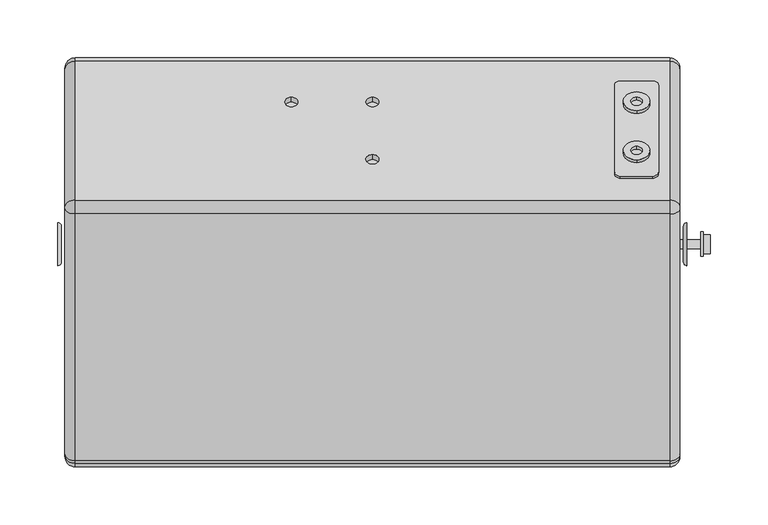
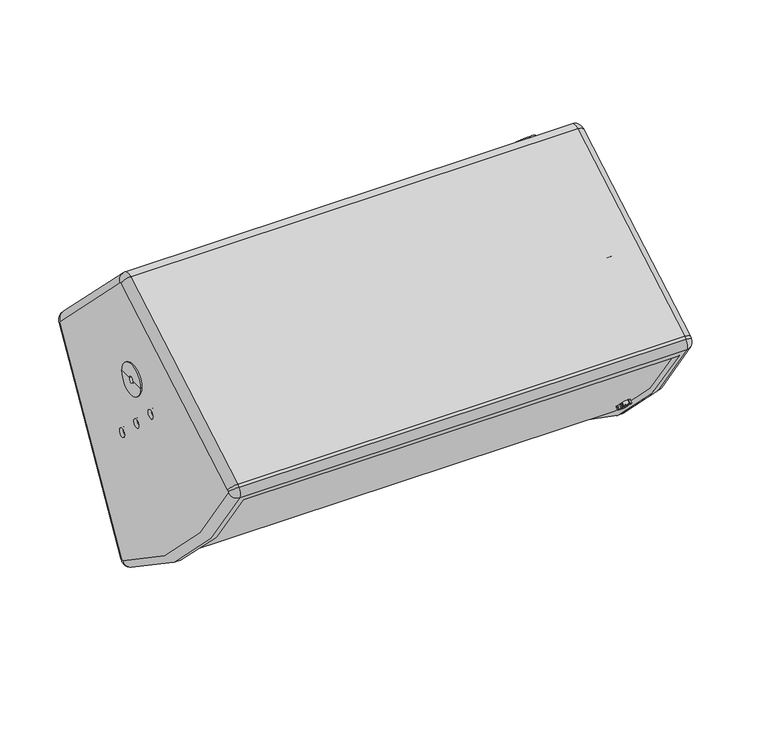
"""IFC4 building model written with IfcOpenShell, lengths in millimetres: proxy geometry, ePS10-WM330-HBRK535-WHM : ePS10-WM330-HBRK535-WHM."""

from ifc_helpers import new_model, si_unit, point, frame, frame_2d, origin, place, context, project, spatial, polyline, circle_curve, ellipse_curve, trimmed, segment, composite_curve, outline, extrude, source, transform, mapped, element, save
from ifc_brep_helpers import plane_surface, cylinder_surface, revolved_surface, advanced_brep


def generic_models_1c3ee055(model_context):
    return source(origin(), model_context, "Body", "SolidModel", [
        extrude(outline(polyline([(0.0, 0.0), (7.2797671, 0.0), (7.2797671, -1.8923674), (3.1144368, -1.8923674), (7.2797671, -4.6674642), (7.2797671, -11.518374), (5.4047959, -12.8369463), (3.8052625, -11.7735692), (5.6771026, -10.4040265), (5.6771026, -7.3703973), (4.4228153, -7.3703973), (4.4228153, -9.6535102), (2.820085, -9.6535102), (2.820085, -7.3703973), (1.6035818, -7.3703973), (1.6035818, -9.7774719), (0.8035818, -9.7774719), (0.0008515, -9.2438132), (0.0008515, -4.9754372), (4.4509076, -4.9657455), (0.0, -2.0264794), (0.0, 0.0)])), frame((236.0590531, -413.2869064, -352.6687176), z_axis=(0.0, 0.7071067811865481, 0.7071067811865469), x_axis=(1.0, 0.0, 0.0)), (0.0, 0.0, 1.0), 5.0),
        extrude(outline(polyline([(0.0, -9.8851283), (8.2409469, -15.3637475), (8.2409469, -17.5569502), (0.0, -12.0783311), (0.0, -9.8851283)])), frame((236.0590531, -413.2869064, -352.6687176), z_axis=(0.0, 0.7071067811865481, 0.7071067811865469), x_axis=(1.0, 0.0, 0.0)), (0.0, 0.0, 1.0), 5.0),
        extrude(outline(polyline([(0.0, -16.6257623), (0.0, -14.2989718), (1.267957, -13.5511775), (2.8988509, -14.6354033), (0.0, -16.6257623)])), frame((236.0590531, -413.2869064, -352.6687176), z_axis=(0.0, 0.7071067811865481, 0.7071067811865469), x_axis=(1.0, 0.0, 0.0)), (0.0, 0.0, 1.0), 5.0),
        extrude(outline(composite_curve([segment(trimmed(circle_curve(frame_2d((3.670838, -20.0113735)), 3.9406238), [point((3.670838, -16.0707497))], [point((3.670838, -23.9519974))], False, "CARTESIAN"), True, "CONTINUOUS"), segment(trimmed(circle_curve(frame_2d((3.670838, -20.0113735)), 3.9406238), [point((3.670838, -23.9519974))], [point((3.670838, -16.0707497))], False, "CARTESIAN"), True, "CONTINUOUS")], self_intersect=False), holes=[composite_curve([segment(trimmed(circle_curve(frame_2d((3.670838, -20.0113735)), 2.0681078), [point((3.670838, -17.9432658))], [point((3.670838, -22.0794813))], True, "CARTESIAN"), True, "CONTINUOUS"), segment(trimmed(circle_curve(frame_2d((3.670838, -20.0113735)), 2.0681078), [point((3.670838, -22.0794813))], [point((3.670838, -17.9432658))], True, "CARTESIAN"), True, "CONTINUOUS")], self_intersect=False)]), frame((236.0590531, -413.2869064, -352.6687176), z_axis=(0.0, 0.7071067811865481, 0.7071067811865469), x_axis=(1.0, 0.0, 0.0)), (0.0, 0.0, 1.0), 5.0),
        extrude(outline(composite_curve([segment(trimmed(circle_curve(frame_2d((0.0, 5.0)), 11.4515227), [point((0.0, 16.4515227))], [point((0.0, -6.4515226))], False, "CARTESIAN"), True, "CONTINUOUS"), segment(trimmed(circle_curve(frame_2d((0.0, 5.0)), 11.4515227), [point((0.0, -6.4515226))], [point((0.0, 16.4515227))], False, "CARTESIAN"), True, "CONTINUOUS")], self_intersect=False), holes=[composite_curve([segment(trimmed(circle_curve(frame_2d((0.0, 5.0)), 5.0), [point((0.0, 10.0))], [point((0.0, 0.0))], True, "CARTESIAN"), True, "CONTINUOUS"), segment(trimmed(circle_curve(frame_2d((0.0, 5.0)), 5.0), [point((0.0, 0.0))], [point((0.0, 10.0))], True, "CARTESIAN"), True, "CONTINUOUS")], self_intersect=False)]), frame((228.0, -242.4086253, -129.5545454), z_axis=(0.0, 0.7071067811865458, 0.7071067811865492), x_axis=(-1.0, 0.0, 0.0)), (0.0, 0.0, 1.0), 3.4052646),
        extrude(outline(composite_curve([segment(trimmed(circle_curve(frame_2d((0.0, -55.0)), 11.4515227), [point((0.0, -43.5484773))], [point((0.0, -66.4515227))], False, "CARTESIAN"), True, "CONTINUOUS"), segment(trimmed(circle_curve(frame_2d((0.0, -55.0)), 11.4515227), [point((0.0, -66.4515227))], [point((0.0, -43.5484773))], False, "CARTESIAN"), True, "CONTINUOUS")], self_intersect=False), holes=[composite_curve([segment(trimmed(circle_curve(frame_2d((0.0, -55.0)), 5.0), [point((0.0, -50.0))], [point((0.0, -60.0))], True, "CARTESIAN"), True, "CONTINUOUS"), segment(trimmed(circle_curve(frame_2d((0.0, -55.0)), 5.0), [point((0.0, -60.0))], [point((0.0, -50.0))], True, "CARTESIAN"), True, "CONTINUOUS")], self_intersect=False)]), frame((228.0, -242.4086253, -129.5545454), z_axis=(0.0, 0.7071067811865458, 0.7071067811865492), x_axis=(-1.0, 0.0, 0.0)), (0.0, 0.0, 1.0), 3.4052646),
        extrude(outline(composite_curve([segment(polyline([(-5.0, -5.0), (-5.0, 101.0)]), True, "CONTINUOUS"), segment(trimmed(circle_curve(frame_2d((0.0, 101.0)), 5.0), [point((-5.0, 101.0))], [point((0.0, 106.0))], False, "CARTESIAN"), True, "CONTINUOUS"), segment(polyline([(0.0, 106.0), (28.0, 106.0)]), True, "CONTINUOUS"), segment(trimmed(circle_curve(frame_2d((28.0, 101.0)), 5.0), [point((28.0, 106.0))], [point((33.0, 101.0))], False, "CARTESIAN"), True, "CONTINUOUS"), segment(polyline([(33.0, 101.0), (33.0, -5.0)]), True, "CONTINUOUS"), segment(trimmed(circle_curve(frame_2d((28.0, -5.0)), 5.0), [point((33.0, -5.0))], [point((28.0, -10.0))], False, "CARTESIAN"), True, "CONTINUOUS"), segment(polyline([(28.0, -10.0), (0.0, -10.0)]), True, "CONTINUOUS"), segment(trimmed(circle_curve(frame_2d((0.0, -5.0)), 5.0), [point((0.0, -10.0))], [point((-5.0, -5.0))], False, "CARTESIAN"), True, "CONTINUOUS")], self_intersect=False)), frame((214.0, -260.4398482, -115.0588564), z_axis=(0.0, 0.7071067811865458, 0.7071067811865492), x_axis=(1.0, 0.0, 0.0)), (0.0, 0.0, 1.0), 2.5),
        advanced_brep(
        [(-265.5, -172.9843873, -215.2305344), (-265.5, -172.8241534, -216.447632), (-265.5, -295.2300101, -428.460795), (-265.5, -296.644098, -429.8748829), (-265.5, -297.8446197, -430.0444794), (-265.5, -507.5432202, -220.3458788), (-265.5, -507.3736237, -219.1453572), (-265.5, -505.9595358, -217.7312692), (-265.5, -293.9463729, -95.3254125), (-265.5, -292.7292753, -95.4856465), (-265.5, -328.0355339, -250.5367931), (-265.5, -320.9644661, -243.4657252), (-265.5, -299.7512627, -278.8210643), (-265.5, -292.6801948, -271.7499965), (-265.5, -356.3198052, -222.2525218), (-265.5, -349.2487373, -215.181454), (265.5, -292.7351278, -95.4914989), (265.5, -293.9422345, -95.3325803), (265.5, -505.9544538, -217.7378922), (265.5, -507.3677713, -219.1512096), (265.5, -507.5359756, -220.3418766), (265.5, -297.8406174, -430.0372347), (265.5, -296.6499505, -429.8690304), (265.5, -295.2366331, -428.455713), (265.5, -172.8313212, -216.4434937), (265.5, -172.9902398, -215.2363869), (265.5, -320.9644661, -243.4657252), (265.5, -328.0355339, -250.5367931), (265.5, -292.6801948, -271.7499965), (265.5, -299.7512627, -278.8210643), (265.5, -349.2487373, -215.181454), (265.5, -356.3198052, -222.2525218), (-261.5, -320.9644661, -243.4657252), (-261.5, -328.0355339, -250.5367931), (-261.5, -292.6801948, -271.7499965), (-261.5, -299.7512627, -278.8210643), (-261.5, -349.2487373, -215.181454), (-261.5, -356.3198052, -222.2525218), (-250.5, -309.2268821, -433.9606806), (-250.5, -305.5613562, -430.2951547), (-250.5, -507.7938956, -228.0626153), (-250.5, -511.4594215, -231.7281412), (250.5, -511.4594215, -231.7281412), (250.5, -507.7938956, -228.0626153), (250.5, -305.5613562, -430.2951547), (250.5, -309.2268821, -433.9606806), (261.5, -320.9644661, -243.4657252), (261.5, -328.0355339, -250.5367931), (261.5, -292.6801948, -271.7499965), (261.5, -299.7512627, -278.8210643), (261.5, -349.2487373, -215.181454), (261.5, -356.3198052, -222.2525218), (0.0, -210.0595176, -174.0584445), (0.0, -202.0597921, -182.0581701), (0.0, -259.5569923, -124.5609698), (0.0, -251.5572667, -132.5606954), (-70.0, -210.0595176, -174.0584445), (-70.0, -202.0597921, -182.0581701), (0.0, -197.7501633, -177.7485413), (0.0, -205.7498889, -169.7488158), (0.0, -247.247638, -128.2510666), (0.0, -255.2473636, -120.2513411), (-256.5082766, -166.6262788, -208.8724259), (-256.5082766, -286.3711667, -89.1275379), (256.5, -286.3711667, -89.1275379), (256.5, -166.6262788, -208.8724259), (-70.0, -197.7501633, -177.7485413), (-70.0, -205.7498889, -169.7488158), (-256.5082766, -165.0370925, -220.9434937), (256.5, -165.0370925, -220.9434937), (-256.5082766, -288.0348407, -433.9818427), (256.5, -288.0348407, -433.9818427), (-256.5082766, -290.2859894, -436.2329914), (256.5, -290.2859894, -436.2329914), (-256.5082766, -515.4137756, -224.6939183), (-256.5082766, -302.1926592, -437.9150347), (256.500006, -302.1926592, -437.9150347), (256.5, -515.4137756, -224.6939183), (-256.5082766, -511.4805835, -210.5360998), (-256.5082766, -513.7317323, -212.7872486), (256.5, -513.7317323, -212.7872486), (256.5, -511.4805835, -210.5360998), (-256.5082766, -298.4422345, -87.5383517), (256.5, -298.4422345, -87.5383517)],
        [
            (0, 1, circle_curve(frame((-265.5, -173.6973466, -215.9434937), z_axis=(-1.0, 0.0, 0.0), x_axis=(0.0, 0.7071067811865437, 0.7071067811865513)), 1.0082766)),
            (1, 2),
            (2, 3),
            (3, 4, circle_curve(frame((-265.5, -297.3570572, -429.1619236), z_axis=(-1.0, 0.0, 0.0), x_axis=(0.0, 0.7071067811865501, -0.7071067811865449)), 1.0082766)),
            (4, 5, circle_curve(frame((-265.5, -39.0018389, 38.4969019), z_axis=(-1.0, 0.0, 0.0), x_axis=(0.0, -0.4835601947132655, -0.8753111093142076)), 535.2855417)),
            (5, 6, circle_curve(frame((-265.5, -506.6606645, -219.8583164), z_axis=(-1.0, 0.0, 0.0), x_axis=(0.0, -0.8753111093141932, -0.48356019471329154)), 1.0082766)),
            (6, 7),
            (7, 8),
            (8, 9, circle_curve(frame((-265.5, -293.4422345, -96.1986057), z_axis=(-1.0, 0.0, 0.0), x_axis=(0.0, -0.5000000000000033, 0.8660254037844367)), 1.0082766)),
            (9, 0),
            (10, 11, circle_curve(frame((-265.5, -324.5, -247.0012591), z_axis=(1.0, 0.0, 0.0), x_axis=(0.0, -0.7071067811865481, -0.7071067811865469)), 5.0)),
            (11, 10, circle_curve(frame((-265.5, -324.5, -247.0012591), z_axis=(1.0, 0.0, 0.0), x_axis=(0.0, -0.7071067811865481, -0.7071067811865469)), 5.0)),
            (12, 13, circle_curve(frame((-265.5, -296.2157288, -275.2855304), z_axis=(1.0, 0.0, 0.0), x_axis=(0.0, -0.7071067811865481, -0.7071067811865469)), 5.0)),
            (13, 12, circle_curve(frame((-265.5, -296.2157288, -275.2855304), z_axis=(1.0, 0.0, 0.0), x_axis=(0.0, -0.7071067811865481, -0.7071067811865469)), 5.0)),
            (14, 15, circle_curve(frame((-265.5, -352.7842712, -218.7169879), z_axis=(1.0, 0.0, 0.0), x_axis=(0.0, -0.7071067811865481, -0.7071067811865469)), 5.0)),
            (15, 14, circle_curve(frame((-265.5, -352.7842712, -218.7169879), z_axis=(1.0, 0.0, 0.0), x_axis=(0.0, -0.7071067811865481, -0.7071067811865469)), 5.0)),
            (16, 17, circle_curve(frame((265.5, -293.4422345, -96.1986057), z_axis=(1.0, 0.0, 0.0), x_axis=(0.0, 0.7071067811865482, 0.7071067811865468)), 1.0)),
            (17, 18),
            (18, 19),
            (19, 20, circle_curve(frame((265.5, -506.6606645, -219.8583164), z_axis=(1.0, 0.0, 0.0), x_axis=(0.0, -0.7071067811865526, 0.7071067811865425)), 1.0)),
            (20, 21, circle_curve(frame((265.5, -39.0018389, 38.4969019), z_axis=(1.0, 0.0, 0.0), x_axis=(0.0, -0.8753111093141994, -0.4835601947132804)), 535.277265)),
            (21, 22, circle_curve(frame((265.5, -297.3570572, -429.1619236), z_axis=(1.0, 0.0, 0.0), x_axis=(0.0, -0.4835601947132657, -0.8753111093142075)), 1.0)),
            (22, 23),
            (23, 24),
            (24, 25, circle_curve(frame((265.5, -173.6973466, -215.9434937), z_axis=(1.0, 0.0, 0.0), x_axis=(0.0, 0.8660254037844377, -0.5000000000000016)), 1.0)),
            (25, 16),
            (26, 27, circle_curve(frame((265.5, -324.5, -247.0012591), z_axis=(-1.0, 0.0, 0.0), x_axis=(0.0, -0.7071067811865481, -0.7071067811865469)), 5.0)),
            (27, 26, circle_curve(frame((265.5, -324.5, -247.0012591), z_axis=(-1.0, 0.0, 0.0), x_axis=(0.0, -0.7071067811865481, -0.7071067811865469)), 5.0)),
            (28, 29, circle_curve(frame((265.5, -296.2157288, -275.2855304), z_axis=(-1.0, 0.0, 0.0), x_axis=(0.0, -0.7071067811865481, -0.7071067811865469)), 5.0)),
            (29, 28, circle_curve(frame((265.5, -296.2157288, -275.2855304), z_axis=(-1.0, 0.0, 0.0), x_axis=(0.0, -0.7071067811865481, -0.7071067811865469)), 5.0)),
            (30, 31, circle_curve(frame((265.5, -352.7842712, -218.7169879), z_axis=(-1.0, 0.0, 0.0), x_axis=(0.0, -0.7071067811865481, -0.7071067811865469)), 5.0)),
            (31, 30, circle_curve(frame((265.5, -352.7842712, -218.7169879), z_axis=(-1.0, 0.0, 0.0), x_axis=(0.0, -0.7071067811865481, -0.7071067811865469)), 5.0)),
            (32, 33, circle_curve(frame((-261.5, -324.5, -247.0012591), z_axis=(-1.0, 0.0, 0.0), x_axis=(0.0, -0.7071067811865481, -0.7071067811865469)), 5.0)),
            (33, 32, circle_curve(frame((-261.5, -324.5, -247.0012591), z_axis=(-1.0, 0.0, 0.0), x_axis=(0.0, -0.7071067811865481, -0.7071067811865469)), 5.0)),
            (34, 35, circle_curve(frame((-261.5, -296.2157288, -275.2855304), z_axis=(-1.0, 0.0, 0.0), x_axis=(0.0, -0.7071067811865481, -0.7071067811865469)), 5.0)),
            (35, 34, circle_curve(frame((-261.5, -296.2157288, -275.2855304), z_axis=(-1.0, 0.0, 0.0), x_axis=(0.0, -0.7071067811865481, -0.7071067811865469)), 5.0)),
            (36, 37, circle_curve(frame((-261.5, -352.7842712, -218.7169879), z_axis=(-1.0, 0.0, 0.0), x_axis=(0.0, -0.7071067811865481, -0.7071067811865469)), 5.0)),
            (37, 36, circle_curve(frame((-261.5, -352.7842712, -218.7169879), z_axis=(-1.0, 0.0, 0.0), x_axis=(0.0, -0.7071067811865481, -0.7071067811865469)), 5.0)),
            (32, 11),
            (10, 33),
            (34, 13),
            (12, 35),
            (36, 15),
            (14, 37),
            (38, 39),
            (39, 40, circle_curve(frame((-250.5, -39.0018389, 38.4969019), z_axis=(-1.0, 0.0, 0.0), x_axis=(0.0, -0.7071067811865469, 0.7071067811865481)), 539.277265)),
            (40, 41),
            (41, 38, circle_curve(frame((-250.5, -39.0018389, 38.4969019), z_axis=(1.0, 0.0, 0.0), x_axis=(0.0, -0.7071067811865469, 0.7071067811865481)), 544.277265)),
            (42, 43),
            (43, 44, circle_curve(frame((250.5, -39.0018389, 38.4969019), z_axis=(1.0, 0.0, 0.0), x_axis=(0.0, -0.7071067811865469, 0.7071067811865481)), 539.277265)),
            (44, 45),
            (45, 42, circle_curve(frame((250.5, -39.0018389, 38.4969019), z_axis=(-1.0, 0.0, 0.0), x_axis=(0.0, -0.7071067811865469, 0.7071067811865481)), 544.277265)),
            (46, 47, circle_curve(frame((261.5, -324.5, -247.0012591), z_axis=(1.0, 0.0, 0.0), x_axis=(0.0, -0.7071067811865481, -0.7071067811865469)), 5.0)),
            (47, 46, circle_curve(frame((261.5, -324.5, -247.0012591), z_axis=(1.0, 0.0, 0.0), x_axis=(0.0, -0.7071067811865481, -0.7071067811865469)), 5.0)),
            (48, 49, circle_curve(frame((261.5, -296.2157288, -275.2855304), z_axis=(1.0, 0.0, 0.0), x_axis=(0.0, -0.7071067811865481, -0.7071067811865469)), 5.0)),
            (49, 48, circle_curve(frame((261.5, -296.2157288, -275.2855304), z_axis=(1.0, 0.0, 0.0), x_axis=(0.0, -0.7071067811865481, -0.7071067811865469)), 5.0)),
            (50, 51, circle_curve(frame((261.5, -352.7842712, -218.7169879), z_axis=(1.0, 0.0, 0.0), x_axis=(0.0, -0.7071067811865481, -0.7071067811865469)), 5.0)),
            (51, 50, circle_curve(frame((261.5, -352.7842712, -218.7169879), z_axis=(1.0, 0.0, 0.0), x_axis=(0.0, -0.7071067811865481, -0.7071067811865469)), 5.0)),
            (47, 27),
            (26, 46),
            (49, 29),
            (28, 48),
            (51, 31),
            (30, 50),
            (52, 53, circle_curve(frame((0.0, -206.0596548, -178.0583073), z_axis=(0.0, 0.7071067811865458, 0.7071067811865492), x_axis=(0.0, 0.7071067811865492, -0.7071067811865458)), 5.6566602)),
            (53, 52, circle_curve(frame((0.0, -206.0596548, -178.0583073), z_axis=(0.0, 0.7071067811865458, 0.7071067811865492), x_axis=(0.0, 0.7071067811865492, -0.7071067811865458)), 5.6566602)),
            (54, 55, circle_curve(frame((0.0, -255.5571295, -128.5608326), z_axis=(0.0, 0.7071067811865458, 0.7071067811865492), x_axis=(0.0, 0.7071067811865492, -0.7071067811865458)), 5.6566602)),
            (55, 54, circle_curve(frame((0.0, -255.5571295, -128.5608326), z_axis=(0.0, 0.7071067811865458, 0.7071067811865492), x_axis=(0.0, 0.7071067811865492, -0.7071067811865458)), 5.6566602)),
            (56, 57, circle_curve(frame((-70.0, -206.0596548, -178.0583073), z_axis=(0.0, 0.7071067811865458, 0.7071067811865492), x_axis=(0.0, 0.7071067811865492, -0.7071067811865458)), 5.6566602)),
            (57, 56, circle_curve(frame((-70.0, -206.0596548, -178.0583073), z_axis=(0.0, 0.7071067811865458, 0.7071067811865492), x_axis=(0.0, 0.7071067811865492, -0.7071067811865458)), 5.6566602)),
            (53, 58),
            (58, 59, circle_curve(frame((0.0, -201.7500261, -173.7486785), z_axis=(0.0, 0.7071067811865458, 0.7071067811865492), x_axis=(0.0, 0.7071067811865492, -0.7071067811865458)), 5.6566602)),
            (59, 52),
            (59, 58, circle_curve(frame((0.0, -201.7500261, -173.7486785), z_axis=(0.0, 0.7071067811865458, 0.7071067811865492), x_axis=(0.0, 0.7071067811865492, -0.7071067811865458)), 5.6566602)),
            (55, 60),
            (60, 61, circle_curve(frame((0.0, -251.2475008, -124.2512038), z_axis=(0.0, 0.7071067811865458, 0.7071067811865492), x_axis=(0.0, 0.7071067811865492, -0.7071067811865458)), 5.6566602)),
            (61, 54),
            (61, 60, circle_curve(frame((0.0, -251.2475008, -124.2512038), z_axis=(0.0, 0.7071067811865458, 0.7071067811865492), x_axis=(0.0, 0.7071067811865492, -0.7071067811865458)), 5.6566602)),
            (62, 63),
            (63, 64),
            (64, 65),
            (65, 62),
            (66, 67, circle_curve(frame((-70.0, -201.7500261, -173.7486785), z_axis=(0.0, -0.7071067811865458, -0.7071067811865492), x_axis=(0.0, 0.7071067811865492, -0.7071067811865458)), 5.6566602)),
            (67, 66, circle_curve(frame((-70.0, -201.7500261, -173.7486785), z_axis=(0.0, -0.7071067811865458, -0.7071067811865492), x_axis=(0.0, 0.7071067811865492, -0.7071067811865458)), 5.6566602)),
            (68, 62, circle_curve(frame((-256.5082766, -173.6973466, -215.9434937), z_axis=(1.0, 0.0, 0.0), x_axis=(0.0, -0.7071067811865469, 0.7071067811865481)), 10.0)),
            (65, 69, circle_curve(frame((256.5, -173.6973466, -215.9434937), z_axis=(-1.0, 0.0, 0.0), x_axis=(0.0, -0.7071067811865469, 0.7071067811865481)), 10.0)),
            (69, 68),
            (70, 68),
            (69, 71),
            (71, 70),
            (72, 70),
            (71, 73),
            (73, 72),
            (74, 75, circle_curve(frame((-256.5082766, -39.0018389, 38.4969019), z_axis=(1.0, 0.0, 0.0), x_axis=(0.0, -0.7071067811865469, 0.7071067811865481)), 544.277265)),
            (75, 76),
            (76, 77, circle_curve(frame((256.5, -39.0018389, 38.4969019), z_axis=(-1.0, 0.0, 0.0), x_axis=(0.0, -0.7071067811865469, 0.7071067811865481)), 544.277265)),
            (77, 74),
            (41, 42),
            (45, 38),
            (78, 79),
            (79, 80),
            (80, 81),
            (81, 78),
            (82, 78),
            (81, 83),
            (83, 82),
            (63, 82, circle_curve(frame((-256.5082766, -293.4422345, -96.1986057), z_axis=(1.0, 0.0, 0.0), x_axis=(0.0, -0.7071067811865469, 0.7071067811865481)), 10.0)),
            (83, 64, circle_curve(frame((256.5, -293.4422345, -96.1986057), z_axis=(-1.0, 0.0, 0.0), x_axis=(0.0, -0.7071067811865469, 0.7071067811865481)), 10.0)),
            (75, 72, circle_curve(frame((-256.5082766, -297.3570572, -429.1619236), z_axis=(1.0, 0.0, 0.0), x_axis=(0.0, -0.7071067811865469, 0.7071067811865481)), 10.0)),
            (73, 76, circle_curve(frame((256.5, -297.3570572, -429.1619236), z_axis=(-1.0, 0.0, 0.0), x_axis=(0.0, -0.7071067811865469, 0.7071067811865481)), 10.0)),
            (79, 74, circle_curve(frame((-256.5082766, -506.6606645, -219.8583164), z_axis=(1.0, 0.0, 0.0), x_axis=(0.0, -0.7071067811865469, 0.7071067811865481)), 10.0)),
            (77, 80, circle_curve(frame((256.5, -506.6606645, -219.8583164), z_axis=(-1.0, 0.0, 0.0), x_axis=(0.0, -0.7071067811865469, 0.7071067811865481)), 10.0)),
            (56, 67),
            (66, 57),
            (40, 43),
            (39, 44),
            (68, 1, circle_curve(frame((-256.5082766, -172.8241534, -216.447632), z_axis=(0.0, 0.5000000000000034, 0.8660254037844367), x_axis=(0.0, -0.8660254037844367, 0.5000000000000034)), 8.9917234)),
            (0, 62, circle_curve(frame((-256.5082766, -172.9843873, -215.2305344), z_axis=(0.0, 0.7071067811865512, -0.7071067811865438), x_axis=(0.0, -0.7071067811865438, -0.7071067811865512)), 8.9917234)),
            (70, 2, ellipse_curve(frame((-256.5082766, -295.2300101, -428.460795), z_axis=(0.0, 0.6087614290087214, 0.7933533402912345), x_axis=(0.0, 0.7933533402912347, -0.6087614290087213)), 9.0693126, 8.9917234)),
            (72, 3, circle_curve(frame((-256.5082766, -296.644098, -429.8748829), z_axis=(0.0, 0.7071067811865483, 0.7071067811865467), x_axis=(0.0, -0.7071067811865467, 0.7071067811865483)), 8.9917234)),
            (75, 4, circle_curve(frame((-256.5082766, -297.8446197, -430.0444794), z_axis=(0.0, 0.8753111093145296, -0.4835601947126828), x_axis=(0.0, 0.4835601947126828, 0.8753111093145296)), 8.9917234)),
            (74, 5, circle_curve(frame((-256.5082766, -507.5432202, -220.3458788), z_axis=(0.0, 0.4835601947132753, -0.8753111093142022), x_axis=(0.0, 0.8753111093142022, 0.4835601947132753)), 8.9917234)),
            (79, 6, circle_curve(frame((-256.5082766, -507.3736237, -219.1453572), z_axis=(0.0, -0.7071067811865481, -0.7071067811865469), x_axis=(0.0, 0.7071067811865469, -0.7071067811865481)), 8.9917234)),
            (78, 7, ellipse_curve(frame((-256.5082766, -505.9595358, -217.7312692), z_axis=(0.0, -0.7933533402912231, -0.6087614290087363), x_axis=(0.0, -0.6087614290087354, 0.7933533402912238)), 9.0693126, 8.9917234)),
            (82, 8, circle_curve(frame((-256.5082766, -293.9463729, -95.3254125), z_axis=(0.0, -0.8660254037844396, -0.4999999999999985), x_axis=(0.0, 0.4999999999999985, -0.8660254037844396)), 8.9917234)),
            (63, 9, circle_curve(frame((-256.5082766, -292.7292753, -95.4856465), z_axis=(0.0, -0.7071067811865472, 0.7071067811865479), x_axis=(0.0, -0.7071067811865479, -0.7071067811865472)), 8.9917234)),
            (83, 17, circle_curve(frame((256.5, -293.9422345, -95.3325803), z_axis=(0.0, 0.866025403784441, 0.49999999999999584), x_axis=(0.0, 0.49999999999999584, -0.866025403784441)), 9.0)),
            (16, 64, circle_curve(frame((256.5, -292.7351278, -95.4914989), z_axis=(0.0, -0.7071067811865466, 0.7071067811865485), x_axis=(0.0, -0.7071067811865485, -0.7071067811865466)), 9.0)),
            (81, 18, ellipse_curve(frame((256.5, -505.9544538, -217.7378922), z_axis=(0.0, 0.7933533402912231, 0.6087614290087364), x_axis=(0.0, -0.6087614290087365, 0.7933533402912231)), 9.0776606, 9.0)),
            (80, 19, circle_curve(frame((256.5, -507.3677713, -219.1512096), z_axis=(0.0, 0.7071067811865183, 0.7071067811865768), x_axis=(0.0, 0.7071067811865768, -0.7071067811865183)), 9.0)),
            (77, 20, circle_curve(frame((256.5, -507.5359756, -220.3418766), z_axis=(0.0, -0.4835601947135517, 0.8753111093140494), x_axis=(0.0, 0.8753111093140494, 0.4835601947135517)), 9.0)),
            (76, 21, circle_curve(frame((256.5, -297.8406174, -430.0372347), z_axis=(0.0, -0.8753111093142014, 0.48356019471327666), x_axis=(0.0, 0.48356019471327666, 0.8753111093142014)), 9.0)),
            (73, 22, circle_curve(frame((256.5, -296.6499505, -429.8690304), z_axis=(0.0, -0.7071067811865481, -0.7071067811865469), x_axis=(0.0, -0.7071067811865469, 0.7071067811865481)), 9.0)),
            (71, 23, ellipse_curve(frame((256.5, -295.2366331, -428.455713), z_axis=(0.0, -0.6087614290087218, -0.7933533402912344), x_axis=(0.0, 0.7933533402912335, -0.6087614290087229)), 9.0776606, 9.0)),
            (69, 24, circle_curve(frame((256.5, -172.8313212, -216.4434937), z_axis=(0.0, -0.5000000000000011, -0.866025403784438), x_axis=(0.0, -0.866025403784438, 0.5000000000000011)), 9.0)),
            (65, 25, circle_curve(frame((256.5, -172.9902398, -215.2363869), z_axis=(0.0, 0.707106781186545, -0.7071067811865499), x_axis=(0.0, -0.7071067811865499, -0.707106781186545)), 9.0)),
        ],
        [
            plane_surface(frame((-265.5, -166.3549877, -209.1437169), z_axis=(-1.0, 0.0, 0.0), x_axis=(0.0, 0.7071067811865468, -0.7071067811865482))),
            plane_surface(frame((265.5, -166.3549877, -209.1437169), z_axis=(1.0, 0.0, 0.0), x_axis=(0.0, -0.7071067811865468, 0.7071067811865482))),
            plane_surface(frame((-261.5, -328.0355339, -250.5367931), z_axis=(-1.0, 0.0, 0.0), x_axis=(0.0, 0.7071067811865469, -0.7071067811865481))),
            revolved_surface(polyline([(-265.5, -328.03553390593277, -250.53679300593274), (-261.5, -328.03553390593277, -250.53679300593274)]), (-261.5, -324.5, -247.0012591), (-1.0, 0.0, 0.0)),
            revolved_surface(polyline([(-265.5, -299.7512627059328, -278.82106430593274), (-261.5, -299.7512627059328, -278.82106430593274)]), (-265.5, -296.2157288, -275.2855304), (-1.0, 0.0, 0.0)),
            revolved_surface(polyline([(-265.5, -356.31980510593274, -222.25252180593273), (-261.5, -356.31980510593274, -222.25252180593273)]), (-265.5, -352.7842712, -218.7169879), (-1.0, 0.0, 0.0)),
            plane_surface(frame((-250.5, -557.675474, -277.9441937), z_axis=(1.0, 0.0, 0.0), x_axis=(0.0, 0.7071067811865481, 0.7071067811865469))),
            plane_surface(frame((250.5, -557.675474, -277.9441937), z_axis=(-1.0, 0.0, 0.0), x_axis=(0.0, -0.7071067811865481, -0.7071067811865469))),
            plane_surface(frame((261.5, -328.0355339, -250.5367931), z_axis=(1.0, 0.0, 0.0), x_axis=(0.0, -0.7071067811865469, 0.7071067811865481))),
            revolved_surface(polyline([(261.5, -328.03553390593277, -250.53679300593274), (265.5, -328.03553390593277, -250.53679300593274)]), (269.5, -324.5, -247.0012591), (-1.0, 0.0, 0.0)),
            revolved_surface(polyline([(261.5, -299.7512627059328, -278.82106430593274), (265.5, -299.7512627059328, -278.82106430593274)]), (265.5, -296.2157288, -275.2855304), (-1.0, 0.0, 0.0)),
            revolved_surface(polyline([(261.5, -356.31980510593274, -222.25252180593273), (265.5, -356.31980510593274, -222.25252180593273)]), (265.5, -352.7842712, -218.7169879), (-1.0, 0.0, 0.0)),
            plane_surface(frame((0.0, -202.0597921, -182.0581701), z_axis=(0.0, 0.7071067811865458, 0.7071067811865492), x_axis=(1.0, 0.0, 0.0))),
            revolved_surface(polyline([(0.0, -197.75016326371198, -177.74854133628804), (0.0, -202.05979206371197, -182.05817013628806)]), (0.0, -206.0596548, -178.0583073), (0.0, 0.7071067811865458, 0.7071067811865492)),
            revolved_surface(polyline([(0.0, -247.24763801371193, -128.25106658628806), (0.0, -251.55726676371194, -132.5606953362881)]), (0.0, -247.0718482, -120.0755512), (0.0, 0.7071067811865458, 0.7071067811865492)),
            plane_surface(frame((-265.5, -286.3711667, -89.1275379), z_axis=(0.0, 0.7071067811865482, 0.7071067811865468), x_axis=(1.0, 0.0, 0.0))),
            cylinder_surface(frame((265.5, -173.6973466, -215.9434937), z_axis=(-1.0, 0.0, 0.0), x_axis=(0.0, -0.7071067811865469, 0.7071067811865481)), 10.0),
            plane_surface(frame((-265.5, -165.0370925, -220.9434937), z_axis=(0.0, 0.8660254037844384, -0.5000000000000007), x_axis=(1.0, 0.0, 0.0))),
            plane_surface(frame((-265.5, -288.0348407, -433.9818427), z_axis=(0.0, 0.7071067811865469, -0.7071067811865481), x_axis=(1.0, 0.0, 0.0))),
            cylinder_surface(frame((265.5, -39.0018389, 38.4969019), z_axis=(-1.0, 0.0, 0.0), x_axis=(0.0, -0.7071067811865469, 0.7071067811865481)), 544.277265),
            plane_surface(frame((-265.5, -513.7317323, -212.7872486), z_axis=(0.0, -0.707106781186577, 0.707106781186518), x_axis=(1.0, 0.0, 0.0))),
            plane_surface(frame((-265.5, -511.4805835, -210.5360998), z_axis=(0.0, -0.4999999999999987, 0.8660254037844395), x_axis=(1.0, 0.0, 0.0))),
            cylinder_surface(frame((265.5, -293.4422345, -96.1986057), z_axis=(-1.0, 0.0, 0.0), x_axis=(0.0, -0.7071067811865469, 0.7071067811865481)), 10.0),
            cylinder_surface(frame((265.5, -297.3570572, -429.1619236), z_axis=(-1.0, 0.0, 0.0), x_axis=(0.0, -0.7071067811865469, 0.7071067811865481)), 10.0),
            cylinder_surface(frame((265.5, -506.6606645, -219.8583164), z_axis=(-1.0, 0.0, 0.0), x_axis=(0.0, -0.7071067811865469, 0.7071067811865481)), 10.0),
            revolved_surface(polyline([(-70.0, -197.75016331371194, -177.74854128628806), (-70.0, -202.05979211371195, -182.0581700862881)]), (-70.0, -197.5743735, -169.5730259), (0.0, 0.7071067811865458, 0.7071067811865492)),
            plane_surface(frame((-250.5, -511.4594215, -231.7281412), z_axis=(0.0, 0.7071067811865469, -0.7071067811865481), x_axis=(1.0, 0.0, 0.0))),
            cylinder_surface(frame((250.5, -39.0018389, 38.4969019), z_axis=(1.0, 0.0, 0.0), x_axis=(0.0, -0.7071067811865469, 0.7071067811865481)), 539.277265),
            plane_surface(frame((-250.5, -305.5613562, -430.2951547), z_axis=(0.0, -0.7071067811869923, 0.7071067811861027), x_axis=(1.0, 0.0, 0.0))),
            revolved_surface(trimmed(ellipse_curve(frame((-256.5082766, -172.9843873, -215.2305344), z_axis=(0.0, -0.7071067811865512, 0.7071067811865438), x_axis=(0.0, -0.7071067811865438, -0.7071067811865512)), 8.9917234, 8.9917234), [point((-256.5082766, -166.6262788, -208.8724259))], [point((-265.5, -172.9843873, -215.2305344))], True, "CARTESIAN"), (-265.5, -173.6973466, -215.9434937), (-1.0, 0.0, 0.0)),
            cylinder_surface(frame((-256.5082766, -172.8241534, -216.447632), z_axis=(0.0, -0.5000000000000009, -0.8660254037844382), x_axis=(0.0, -0.8660254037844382, 0.5000000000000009)), 8.9917234),
            cylinder_surface(frame((-256.5082766, -294.3929492, -427.6237341), z_axis=(0.0, -0.7071067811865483, -0.7071067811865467), x_axis=(0.0, -0.7071067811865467, 0.7071067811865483)), 8.9917234),
            revolved_surface(trimmed(ellipse_curve(frame((-256.5082766, -296.644098, -429.8748829), z_axis=(0.0, 0.7071067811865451, 0.7071067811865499), x_axis=(0.0, -0.7071067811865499, 0.7071067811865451)), 8.9917234, 8.9917234), [point((-256.5082766, -290.2859894, -436.2329914))], [point((-265.5, -296.644098, -429.8748829))], True, "CARTESIAN"), (-265.5, -297.3570572, -429.1619236), (-1.0, 0.0, 0.0)),
            revolved_surface(trimmed(ellipse_curve(frame((-256.5082766, -297.8446197, -430.0444794), z_axis=(0.0, 0.8753111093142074, -0.48356019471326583), x_axis=(0.0, 0.48356019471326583, 0.8753111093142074)), 8.9917234, 8.9917234), [point((-256.5082766, -302.1926592, -437.9150347))], [point((-265.5, -297.8446197, -430.0444794))], True, "CARTESIAN"), (-265.5, -39.0018389, 38.4969019), (-1.0, 0.0, 0.0)),
            revolved_surface(trimmed(ellipse_curve(frame((-256.5082766, -507.5432202, -220.3458788), z_axis=(0.0, 0.48356019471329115, -0.8753111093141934), x_axis=(0.0, 0.8753111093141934, 0.48356019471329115)), 8.9917234, 8.9917234), [point((-256.5082766, -515.4137756, -224.6939183))], [point((-265.5, -507.5432202, -220.3458788))], True, "CARTESIAN"), (-265.5, -506.6606645, -219.8583164), (-1.0, 0.0, 0.0)),
            cylinder_surface(frame((-256.5082766, -507.3736237, -219.1453572), z_axis=(0.0, 0.7071067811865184, 0.7071067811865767), x_axis=(0.0, 0.7071067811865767, -0.7071067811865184)), 8.9917234),
            cylinder_surface(frame((-256.5082766, -506.9847218, -218.3231607), z_axis=(0.0, 0.8660254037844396, 0.4999999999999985), x_axis=(0.0, 0.4999999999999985, -0.8660254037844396)), 8.9917234),
            revolved_surface(trimmed(ellipse_curve(frame((-256.5082766, -293.9463729, -95.3254125), z_axis=(0.0, -0.8660254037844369, -0.500000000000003), x_axis=(0.0, 0.500000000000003, -0.8660254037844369)), 8.9917234, 8.9917234), [point((-256.5082766, -298.4422345, -87.5383517))], [point((-265.5, -293.9463729, -95.3254125))], True, "CARTESIAN"), (-265.5, -293.4422345, -96.1986057), (-1.0, 0.0, 0.0)),
            cylinder_surface(frame((-256.5082766, -292.7292753, -95.4856465), z_axis=(0.0, 0.7071067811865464, -0.7071067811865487), x_axis=(0.0, -0.7071067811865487, -0.7071067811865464)), 8.9917234),
            revolved_surface(trimmed(ellipse_curve(frame((256.5, -292.7351278, -95.4914989), z_axis=(0.0, 0.7071067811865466, -0.7071067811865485), x_axis=(0.0, -0.7071067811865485, -0.7071067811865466)), 9.0, 9.0), [point((256.5, -286.3711667, -89.1275379))], [point((265.5, -292.7351278, -95.4914989))], True, "CARTESIAN"), (265.5, -293.4422345, -96.1986057), (1.0, 0.0, 0.0)),
            cylinder_surface(frame((256.5, -293.9422345, -95.3325803), z_axis=(0.0, -0.8660254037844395, -0.49999999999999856), x_axis=(0.0, 0.49999999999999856, -0.8660254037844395)), 9.0),
            cylinder_surface(frame((256.5, -505.1166225, -216.9000608), z_axis=(0.0, -0.7071067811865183, -0.7071067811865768), x_axis=(0.0, 0.7071067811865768, -0.7071067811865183)), 9.0),
            revolved_surface(trimmed(ellipse_curve(frame((256.5, -507.3677713, -219.1512096), z_axis=(0.0, 0.7071067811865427, 0.7071067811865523), x_axis=(0.0, 0.7071067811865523, -0.7071067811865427)), 9.0, 9.0), [point((256.5, -513.7317323, -212.7872486))], [point((265.5, -507.3677713, -219.1512096))], True, "CARTESIAN"), (265.5, -506.6606645, -219.8583164), (1.0, 0.0, 0.0)),
            revolved_surface(trimmed(ellipse_curve(frame((256.5, -507.5359756, -220.3418766), z_axis=(0.0, -0.48356019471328, 0.8753111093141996), x_axis=(0.0, 0.8753111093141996, 0.48356019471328)), 9.0, 9.0), [point((256.5, -515.4137756, -224.6939183))], [point((265.5, -507.5359756, -220.3418766))], True, "CARTESIAN"), (265.5, -39.0018389, 38.4969019), (1.0, 0.0, 0.0)),
            revolved_surface(trimmed(ellipse_curve(frame((256.5, -297.8406174, -430.0372347), z_axis=(0.0, -0.8753111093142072, 0.48356019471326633), x_axis=(0.0, 0.48356019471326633, 0.8753111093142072)), 9.0, 9.0), [point((256.5, -302.1926592, -437.9150347))], [point((265.5, -297.8406174, -430.0372347))], True, "CARTESIAN"), (265.5, -297.3570572, -429.1619236), (1.0, 0.0, 0.0)),
            cylinder_surface(frame((256.5, -296.6499505, -429.8690304), z_axis=(0.0, 0.7071067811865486, 0.7071067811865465), x_axis=(0.0, -0.7071067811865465, 0.7071067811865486)), 9.0),
            cylinder_surface(frame((256.5, -295.8290693, -429.4818427), z_axis=(0.0, 0.5000000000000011, 0.866025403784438), x_axis=(0.0, -0.866025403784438, 0.5000000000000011)), 9.0),
            revolved_surface(trimmed(ellipse_curve(frame((256.5, -172.8313212, -216.4434937), z_axis=(0.0, -0.5000000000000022, -0.8660254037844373), x_axis=(0.0, -0.8660254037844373, 0.5000000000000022)), 9.0, 9.0), [point((256.5, -165.0370925, -220.9434937))], [point((265.5, -172.8313212, -216.4434937))], True, "CARTESIAN"), (265.5, -173.6973466, -215.9434937), (1.0, 0.0, 0.0)),
            cylinder_surface(frame((256.5, -172.9902398, -215.2363869), z_axis=(0.0, -0.7071067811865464, 0.7071067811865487), x_axis=(0.0, -0.7071067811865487, -0.7071067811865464)), 9.0),
        ],
        [
            (0, [[1, 2, 3, 4, 5, 6, 7, 8, 9, 10], [11, 12], [13, 14], [15, 16]]),
            (1, [[17, 18, 19, 20, 21, 22, 23, 24, 25, 26], [27, 28], [29, 30], [31, 32]]),
            (2, [[33, 34]]),
            (2, [[35, 36]]),
            (2, [[37, 38]]),
            (3, [[-33, 39, -11, 40]]),
            (3, [[-34, -40, -12, -39]]),
            (4, [[-35, 41, -13, 42]]),
            (4, [[-36, -42, -14, -41]]),
            (5, [[-37, 43, -15, 44]]),
            (5, [[-38, -44, -16, -43]]),
            (6, [[45, 46, 47, 48]]),
            (7, [[49, 50, 51, 52]]),
            (8, [[53, 54]]),
            (8, [[55, 56]]),
            (8, [[57, 58]]),
            (9, [[-54, 59, -27, 60]]),
            (9, [[-53, -60, -28, -59]]),
            (10, [[-56, 61, -29, 62]]),
            (10, [[-55, -62, -30, -61]]),
            (11, [[-58, 63, -31, 64]]),
            (11, [[-57, -64, -32, -63]]),
            (12, [[65, 66]]),
            (12, [[67, 68]]),
            (12, [[69, 70]]),
            (13, [[-66, 71, 72, 73]]),
            (13, [[-65, -73, 74, -71]]),
            (14, [[-68, 75, 76, 77]]),
            (14, [[-67, -77, 78, -75]]),
            (15, [[79, 80, 81, 82], [-72, -74], [-76, -78], [83, 84]]),
            (16, [[85, -82, 86, 87]]),
            (17, [[88, -87, 89, 90]]),
            (18, [[91, -90, 92, 93]]),
            (19, [[94, 95, 96, 97], [-48, 98, -52, 99]]),
            (20, [[100, 101, 102, 103]]),
            (21, [[104, -103, 105, 106]]),
            (22, [[107, -106, 108, -80]]),
            (23, [[109, -93, 110, -95]]),
            (24, [[111, -97, 112, -101]]),
            (25, [[-69, 113, -83, 114]]),
            (25, [[-70, -114, -84, -113]]),
            (26, [[-47, 115, -49, -98]]),
            (27, [[-46, 116, -50, -115]]),
            (28, [[-45, -99, -51, -116]]),
            (29, [[117, -1, 118, -85]]),
            (30, [[-117, -88, 119, -2]]),
            (31, [[-119, -91, 120, -3]]),
            (32, [[-120, -109, 121, -4]]),
            (33, [[-121, -94, 122, -5]]),
            (34, [[-122, -111, 123, -6]]),
            (35, [[-123, -100, 124, -7]]),
            (36, [[-124, -104, 125, -8]]),
            (37, [[-125, -107, 126, -9]]),
            (38, [[-118, -10, -126, -79]]),
            (39, [[127, -17, 128, -108]]),
            (40, [[-127, -105, 129, -18]]),
            (41, [[-129, -102, 130, -19]]),
            (42, [[-130, -112, 131, -20]]),
            (43, [[-131, -96, 132, -21]]),
            (44, [[-132, -110, 133, -22]]),
            (45, [[-133, -92, 134, -23]]),
            (46, [[-134, -89, 135, -24]]),
            (47, [[-135, -86, 136, -25]]),
            (48, [[-128, -26, -136, -81]]),
        ],
    ),
        advanced_brep(
        [(271.5, -320.527433, -191.5012591), (271.5, -328.472567, -191.5012591), (271.5, -342.942415, -191.5012591), (271.5, -306.057585, -191.5012591), (268.5, -339.942415, -191.5012591), (268.5, -309.057585, -191.5012591), (268.5, -328.472567, -191.5012591), (268.5, -320.527433, -191.5012591)],
        [
            (0, 1, circle_curve(frame((271.5, -324.5, -191.5012591), z_axis=(-1.0, 0.0, 0.0), x_axis=(0.0, -1.0, 0.0)), 3.972567)),
            (1, 2),
            (2, 3, circle_curve(frame((271.5, -324.5, -191.5012591), z_axis=(1.0, 0.0, 0.0), x_axis=(0.0, -1.0, 0.0)), 18.442415)),
            (3, 0),
            (1, 0, circle_curve(frame((271.5, -324.5, -191.5012591), z_axis=(-1.0, 0.0, 0.0), x_axis=(0.0, -1.0, 0.0)), 3.972567)),
            (3, 2, circle_curve(frame((271.5, -324.5, -191.5012591), z_axis=(1.0, 0.0, 0.0), x_axis=(0.0, -1.0, 0.0)), 18.442415)),
            (2, 4, circle_curve(frame((271.5, -339.942415, -191.5012591), z_axis=(0.0, 0.0, -1.0), x_axis=(-1.0, 0.0, 0.0)), 3.0)),
            (4, 5, circle_curve(frame((268.5, -324.5, -191.5012591), z_axis=(1.0, 0.0, 0.0), x_axis=(0.0, -1.0, 0.0)), 15.442415)),
            (5, 3, circle_curve(frame((271.5, -309.057585, -191.5012591), z_axis=(0.0, 0.0, -1.0), x_axis=(-1.0, 0.0, 0.0)), 3.0)),
            (5, 4, circle_curve(frame((268.5, -324.5, -191.5012591), z_axis=(1.0, 0.0, 0.0), x_axis=(0.0, -1.0, 0.0)), 15.442415)),
            (4, 6),
            (6, 7, circle_curve(frame((268.5, -324.5, -191.5012591), z_axis=(1.0, 0.0, 0.0), x_axis=(0.0, -1.0, 0.0)), 3.972567)),
            (7, 5),
            (7, 6, circle_curve(frame((268.5, -324.5, -191.5012591), z_axis=(1.0, 0.0, 0.0), x_axis=(0.0, -1.0, 0.0)), 3.972567)),
            (6, 1),
            (0, 7),
        ],
        [
            plane_surface(frame((271.5, -324.5, -191.5012591), z_axis=(1.0, 0.0, 0.0), x_axis=(0.0, -1.0, 0.0))),
            revolved_surface(trimmed(ellipse_curve(frame((271.5, -339.942415, -191.5012591), z_axis=(0.0, 0.0, 1.0), x_axis=(-1.0, 0.0, 0.0)), 3.0, 3.0), [point((268.5, -339.942415, -191.5012591))], [point((271.5, -342.942415, -191.5012591))], True, "CARTESIAN"), (258.7578639, -324.5, -191.5012591), (1.0, 0.0, 0.0)),
            plane_surface(frame((268.5, -324.5, -191.5012591), z_axis=(-1.0, 0.0, 0.0), x_axis=(0.0, -1.0, 0.0))),
            revolved_surface(polyline([(271.5, -328.472567, -191.5012591), (268.5, -328.472567, -191.5012591)]), (258.7578639, -324.5, -191.5012591), (1.0, 0.0, 0.0)),
        ],
        [
            (0, [[1, 2, 3, 4]]),
            (0, [[5, -4, 6, -2]]),
            (1, [[-3, 7, 8, 9]]),
            (1, [[-6, -9, 10, -7]]),
            (2, [[-8, 11, 12, 13]]),
            (2, [[-10, -13, 14, -11]]),
            (3, [[-12, 15, -1, 16]]),
            (3, [[-14, -16, -5, -15]]),
        ],
    ),
        advanced_brep(
        [(-271.5, -306.057585, -191.5012591), (-271.5, -342.942415, -191.5012591), (-271.5, -328.472567, -191.5012591), (-271.5, -320.527433, -191.5012591), (-268.5, -309.057585, -191.5012591), (-268.5, -339.942415, -191.5012591), (-268.5, -320.527433, -191.5012591), (-268.5, -328.472567, -191.5012591)],
        [
            (0, 1, circle_curve(frame((-271.5, -324.5, -191.5012591), z_axis=(-1.0, 0.0, 0.0), x_axis=(0.0, -1.0, 0.0)), 18.442415)),
            (1, 2),
            (2, 3, circle_curve(frame((-271.5, -324.5, -191.5012591), z_axis=(1.0, 0.0, 0.0), x_axis=(0.0, -1.0, 0.0)), 3.972567)),
            (3, 0),
            (1, 0, circle_curve(frame((-271.5, -324.5, -191.5012591), z_axis=(-1.0, 0.0, 0.0), x_axis=(0.0, -1.0, 0.0)), 18.442415)),
            (3, 2, circle_curve(frame((-271.5, -324.5, -191.5012591), z_axis=(1.0, 0.0, 0.0), x_axis=(0.0, -1.0, 0.0)), 3.972567)),
            (4, 5, circle_curve(frame((-268.5, -324.5, -191.5012591), z_axis=(-1.0, 0.0, 0.0), x_axis=(0.0, -1.0, 0.0)), 15.442415)),
            (5, 1, circle_curve(frame((-271.5, -339.942415, -191.5012591), z_axis=(0.0, 0.0, -1.0), x_axis=(1.0, 0.0, 0.0)), 3.0)),
            (0, 4, circle_curve(frame((-271.5, -309.057585, -191.5012591), z_axis=(0.0, 0.0, -1.0), x_axis=(1.0, 0.0, 0.0)), 3.0)),
            (5, 4, circle_curve(frame((-268.5, -324.5, -191.5012591), z_axis=(-1.0, 0.0, 0.0), x_axis=(0.0, -1.0, 0.0)), 15.442415)),
            (6, 7, circle_curve(frame((-268.5, -324.5, -191.5012591), z_axis=(-1.0, 0.0, 0.0), x_axis=(0.0, -1.0, 0.0)), 3.972567)),
            (7, 5),
            (4, 6),
            (7, 6, circle_curve(frame((-268.5, -324.5, -191.5012591), z_axis=(-1.0, 0.0, 0.0), x_axis=(0.0, -1.0, 0.0)), 3.972567)),
            (2, 7),
            (6, 3),
        ],
        [
            plane_surface(frame((-271.5, -324.5, -191.5012591), z_axis=(-1.0, 0.0, 0.0), x_axis=(0.0, -1.0, 0.0))),
            revolved_surface(trimmed(ellipse_curve(frame((-271.5, -339.942415, -191.5012591), z_axis=(0.0, 0.0, 1.0), x_axis=(1.0, 0.0, 0.0)), 3.0, 3.0), [point((-271.5, -342.942415, -191.5012591))], [point((-268.5, -339.942415, -191.5012591))], True, "CARTESIAN"), (-258.7578639, -324.5, -191.5012591), (1.0, 0.0, 0.0)),
            plane_surface(frame((-268.5, -324.5, -191.5012591), z_axis=(1.0, 0.0, 0.0), x_axis=(0.0, -1.0, 0.0))),
            revolved_surface(polyline([(-268.5, -328.472567, -191.5012591), (-271.5, -328.472567, -191.5012591)]), (-258.7578639, -324.5, -191.5012591), (1.0, 0.0, 0.0)),
        ],
        [
            (0, [[1, 2, 3, 4]]),
            (0, [[5, -4, 6, -2]]),
            (1, [[7, 8, -1, 9]]),
            (1, [[10, -9, -5, -8]]),
            (2, [[11, 12, -7, 13]]),
            (2, [[14, -13, -10, -12]]),
            (3, [[-3, 15, -11, 16]]),
            (3, [[-6, -16, -14, -15]]),
        ],
    ),
        advanced_brep(
        [(271.5, -320.4446423, -246.5012591), (271.5, -328.5553577, -246.5012591), (271.5, -342.942415, -246.5012591), (271.5, -306.057585, -246.5012591), (268.5, -339.942415, -246.5012591), (268.5, -309.057585, -246.5012591), (268.5, -328.5553577, -246.5012591), (268.5, -320.4446423, -246.5012591), (265.5, -328.5553577, -246.5012591), (265.5, -320.4446423, -246.5012591), (265.5, -324.5, -246.5012591), (291.5, -324.5, -246.5012591), (291.5, -332.5750303, -246.5012591), (291.5, -316.4249697, -246.5012591), (285.5, -332.5750303, -246.5012591), (285.5, -316.4249697, -246.5012591), (285.5, -335.055922, -246.5012591), (285.5, -313.944078, -246.5012591), (283.5, -335.055922, -246.5012591), (283.5, -313.944078, -246.5012591), (283.5, -328.5553577, -246.5012591), (283.5, -320.4446423, -246.5012591)],
        [
            (0, 1, circle_curve(frame((271.5, -324.5, -246.5012591), z_axis=(-1.0, 0.0, 0.0), x_axis=(0.0, -1.0, 0.0)), 4.0553577)),
            (1, 2),
            (2, 3, circle_curve(frame((271.5, -324.5, -246.5012591), z_axis=(1.0, 0.0, 0.0), x_axis=(0.0, -1.0, 0.0)), 18.442415)),
            (3, 0),
            (1, 0, circle_curve(frame((271.5, -324.5, -246.5012591), z_axis=(-1.0, 0.0, 0.0), x_axis=(0.0, -1.0, 0.0)), 4.0553577)),
            (3, 2, circle_curve(frame((271.5, -324.5, -246.5012591), z_axis=(1.0, 0.0, 0.0), x_axis=(0.0, -1.0, 0.0)), 18.442415)),
            (2, 4, circle_curve(frame((271.5, -339.942415, -246.5012591), z_axis=(0.0, 0.0, -1.0), x_axis=(-1.0, 0.0, 0.0)), 3.0)),
            (4, 5, circle_curve(frame((268.5, -324.5, -246.5012591), z_axis=(1.0, 0.0, 0.0), x_axis=(0.0, -1.0, 0.0)), 15.442415)),
            (5, 3, circle_curve(frame((271.5, -309.057585, -246.5012591), z_axis=(0.0, 0.0, -1.0), x_axis=(-1.0, 0.0, 0.0)), 3.0)),
            (5, 4, circle_curve(frame((268.5, -324.5, -246.5012591), z_axis=(1.0, 0.0, 0.0), x_axis=(0.0, -1.0, 0.0)), 15.442415)),
            (4, 6),
            (6, 7, circle_curve(frame((268.5, -324.5, -246.5012591), z_axis=(1.0, 0.0, 0.0), x_axis=(0.0, -1.0, 0.0)), 4.0553577)),
            (7, 5),
            (7, 6, circle_curve(frame((268.5, -324.5, -246.5012591), z_axis=(1.0, 0.0, 0.0), x_axis=(0.0, -1.0, 0.0)), 4.0553577)),
            (6, 8),
            (8, 9, circle_curve(frame((265.5, -324.5, -246.5012591), z_axis=(1.0, 0.0, 0.0), x_axis=(0.0, -1.0, 0.0)), 4.0553577)),
            (9, 7),
            (9, 8, circle_curve(frame((265.5, -324.5, -246.5012591), z_axis=(1.0, 0.0, 0.0), x_axis=(0.0, -1.0, 0.0)), 4.0553577)),
            (8, 10),
            (10, 9),
            (11, 12),
            (12, 13, circle_curve(frame((291.5, -324.5, -246.5012591), z_axis=(1.0, 0.0, 0.0), x_axis=(0.0, -1.0, 0.0)), 8.0750303)),
            (13, 11),
            (13, 12, circle_curve(frame((291.5, -324.5, -246.5012591), z_axis=(1.0, 0.0, 0.0), x_axis=(0.0, -1.0, 0.0)), 8.0750303)),
            (12, 14),
            (14, 15, circle_curve(frame((285.5, -324.5, -246.5012591), z_axis=(1.0, 0.0, 0.0), x_axis=(0.0, -1.0, 0.0)), 8.0750303)),
            (15, 13),
            (15, 14, circle_curve(frame((285.5, -324.5, -246.5012591), z_axis=(1.0, 0.0, 0.0), x_axis=(0.0, -1.0, 0.0)), 8.0750303)),
            (14, 16),
            (16, 17, circle_curve(frame((285.5, -324.5, -246.5012591), z_axis=(1.0, 0.0, 0.0), x_axis=(0.0, -1.0, 0.0)), 10.555922)),
            (17, 15),
            (17, 16, circle_curve(frame((285.5, -324.5, -246.5012591), z_axis=(1.0, 0.0, 0.0), x_axis=(0.0, -1.0, 0.0)), 10.555922)),
            (16, 18),
            (18, 19, circle_curve(frame((283.5, -324.5, -246.5012591), z_axis=(1.0, 0.0, 0.0), x_axis=(0.0, -1.0, 0.0)), 10.555922)),
            (19, 17),
            (19, 18, circle_curve(frame((283.5, -324.5, -246.5012591), z_axis=(1.0, 0.0, 0.0), x_axis=(0.0, -1.0, 0.0)), 10.555922)),
            (18, 20),
            (20, 21, circle_curve(frame((283.5, -324.5, -246.5012591), z_axis=(1.0, 0.0, 0.0), x_axis=(0.0, -1.0, 0.0)), 4.0553577)),
            (21, 19),
            (21, 20, circle_curve(frame((283.5, -324.5, -246.5012591), z_axis=(1.0, 0.0, 0.0), x_axis=(0.0, -1.0, 0.0)), 4.0553577)),
            (20, 1),
            (0, 21),
        ],
        [
            plane_surface(frame((271.5, -324.5, -246.5012591), z_axis=(1.0, 0.0, 0.0), x_axis=(0.0, -1.0, 0.0))),
            revolved_surface(trimmed(ellipse_curve(frame((271.5, -339.942415, -246.5012591), z_axis=(0.0, 0.0, 1.0), x_axis=(-1.0, 0.0, 0.0)), 3.0, 3.0), [point((268.5, -339.942415, -246.5012591))], [point((271.5, -342.942415, -246.5012591))], True, "CARTESIAN"), (258.7578639, -324.5, -246.5012591), (1.0, 0.0, 0.0)),
            plane_surface(frame((268.5, -324.5, -246.5012591), z_axis=(-1.0, 0.0, 0.0), x_axis=(0.0, -1.0, 0.0))),
            cylinder_surface(frame((258.7578639, -324.5, -246.5012591), z_axis=(1.0, 0.0, 0.0), x_axis=(0.0, -1.0, 0.0)), 4.0553577),
            plane_surface(frame((265.5, -324.5, -246.5012591), z_axis=(-1.0, 0.0, 0.0), x_axis=(0.0, -1.0, 0.0))),
            plane_surface(frame((291.5, -324.5, -246.5012591), z_axis=(1.0, 0.0, 0.0), x_axis=(0.0, -1.0, 0.0))),
            cylinder_surface(frame((258.7578639, -324.5, -246.5012591), z_axis=(1.0, 0.0, 0.0), x_axis=(0.0, -1.0, 0.0)), 8.0750303),
            plane_surface(frame((285.5, -324.5, -246.5012591), z_axis=(1.0, 0.0, 0.0), x_axis=(0.0, -1.0, 0.0))),
            cylinder_surface(frame((258.7578639, -324.5, -246.5012591), z_axis=(1.0, 0.0, 0.0), x_axis=(0.0, -1.0, 0.0)), 10.555922),
            plane_surface(frame((283.5, -324.5, -246.5012591), z_axis=(-1.0, 0.0, 0.0), x_axis=(0.0, -1.0, 0.0))),
        ],
        [
            (0, [[1, 2, 3, 4]]),
            (0, [[5, -4, 6, -2]]),
            (1, [[-3, 7, 8, 9]]),
            (1, [[-6, -9, 10, -7]]),
            (2, [[-8, 11, 12, 13]]),
            (2, [[-10, -13, 14, -11]]),
            (3, [[-12, 15, 16, 17]]),
            (3, [[-14, -17, 18, -15]]),
            (4, [[-16, 19, 20]]),
            (4, [[-18, -20, -19]]),
            (5, [[21, 22, 23]]),
            (5, [[-23, 24, -21]]),
            (6, [[-22, 25, 26, 27]]),
            (6, [[-24, -27, 28, -25]]),
            (7, [[-26, 29, 30, 31]]),
            (7, [[-28, -31, 32, -29]]),
            (8, [[-30, 33, 34, 35]]),
            (8, [[-32, -35, 36, -33]]),
            (9, [[-34, 37, 38, 39]]),
            (9, [[-36, -39, 40, -37]]),
            (3, [[-38, 41, -1, 42]]),
            (3, [[-40, -42, -5, -41]]),
        ],
    ),
    ])


if __name__ == "__main__":
    model = new_model("IFC4")
    model_context = context("Model", 3, world=origin())
    ifc_project = project(units=[si_unit("LENGTHUNIT", "METRE", prefix="MILLI")], contexts=[model_context])
    site = spatial("IfcSite", under=ifc_project)
    building = spatial("IfcBuilding", under=site)
    placement = place(None, origin())
    generic_models_shape = generic_models_1c3ee055(model_context)
    element("IfcBuildingElementProxy", 1, Name="ePS10-WM330-HBRK535-WHM : ePS10-WM330-HBRK535-WHM", ObjectType="ePS10-WM330-HBRK535-WHM : ePS10-WM330-HBRK535-WHM", at=placement, inside=building, context=model_context, shape_type="MappedRepresentation", body=[
        mapped(generic_models_shape, transform((0.0, 0.0, 0.0), x_axis=(1.0, 0.0, 0.0), y_axis=(0.0, 1.0, 0.0), z_axis=(0.0, 0.0, 1.0))),
    ])
    save(model, "model.ifc")
